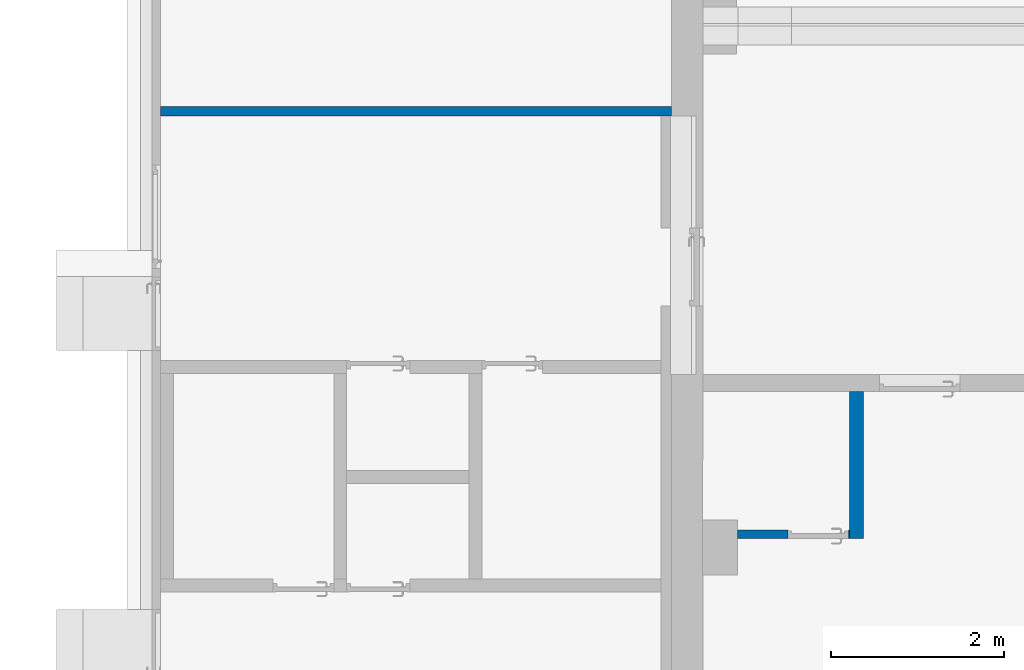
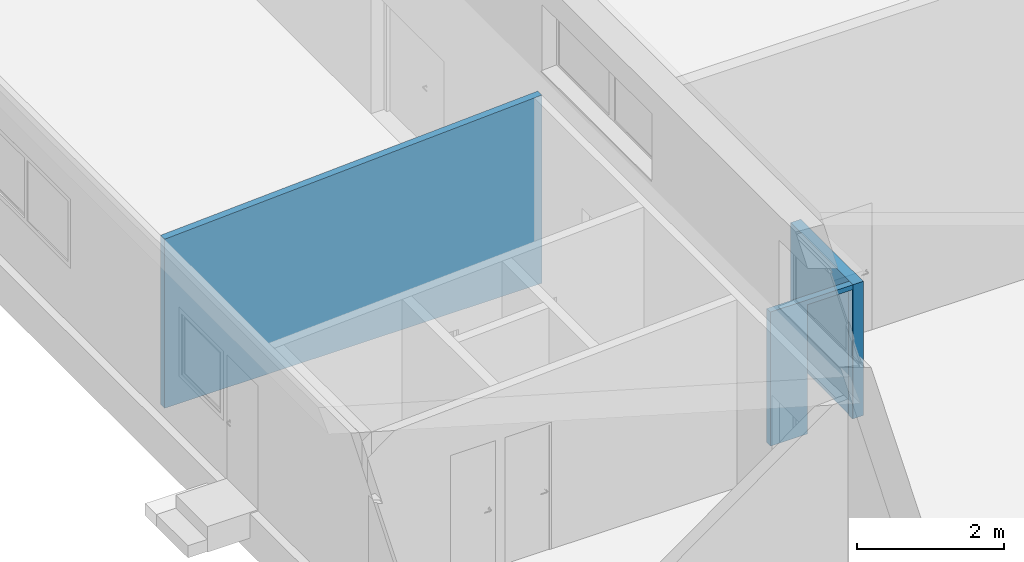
# One storey, part 152 of 301: 3 walls, 1 opening.
"""IFC2X3 building model written with IfcOpenShell, lengths in millimetres."""

from ifc_helpers import new_model, entity, si_unit, converted_unit, derived_unit, money_unit, direction, frame, origin_with_axes, place, context, subcontext, project, spatial, faceted_brep, material, type_object, element, save


model = new_model("IFC2X3")

# Units and contexts
model_context = context("Model", 3, precision=0.01, world=origin_with_axes(), true_north=direction((0.0, 1.0)))
body_context = subcontext(model_context, "Body", "Model", "MODEL_VIEW")
ifc_project = project(units=[si_unit("LENGTHUNIT", "METRE", prefix="MILLI"), si_unit("AREAUNIT", "SQUARE_METRE"), si_unit("VOLUMEUNIT", "CUBIC_METRE"), converted_unit("PLANEANGLEUNIT", "DEGREE", entity("IfcPlaneAngleMeasure", 0.0174532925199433), si_unit("PLANEANGLEUNIT", "RADIAN"), dimensions=[0, 0, 0, 0, 0, 0, 0]), money_unit("EUR"), converted_unit("TIMEUNIT", "Year", entity("IfcTimeMeasure", 31557600.0), si_unit("TIMEUNIT", "SECOND"), dimensions=[0, 0, 1, 0, 0, 0, 0]), si_unit("MASSUNIT", "GRAM", prefix="KILO"), si_unit("THERMODYNAMICTEMPERATUREUNIT", "DEGREE_CELSIUS"), si_unit("LUMINOUSINTENSITYUNIT", "LUMEN"), si_unit("ENERGYUNIT", "JOULE", prefix="MEGA"), derived_unit("THERMALCONDUCTANCEUNIT", [(si_unit("POWERUNIT", "WATT"), 1), (si_unit("LENGTHUNIT", "METRE"), -1), (si_unit("THERMODYNAMICTEMPERATUREUNIT", "KELVIN"), -1)]), derived_unit("SPECIFICHEATCAPACITYUNIT", [(si_unit("ENERGYUNIT", "JOULE"), 1), (si_unit("MASSUNIT", "GRAM", prefix="KILO"), -1), (si_unit("THERMODYNAMICTEMPERATUREUNIT", "KELVIN"), -1)]), derived_unit("MASSDENSITYUNIT", [(si_unit("MASSUNIT", "GRAM", prefix="KILO"), 1), (si_unit("VOLUMEUNIT", "CUBIC_METRE"), -1)])], contexts=[model_context])

# Site, building, storey
site_placement = place(None, frame((0.0, 0.0, 8650.0), z_axis=(0.0, 0.0, 1.0), x_axis=(1.0, 0.0, 0.0)))
site = spatial("IfcSite", under=ifc_project, at=site_placement, Name="43301:001:0844", CompositionType="ELEMENT")
building_placement = place(site_placement, origin_with_axes())
building = spatial("IfcBuilding", under=site, at=building_placement, Name="Kuressaare Ametikooli tuulikute mehaanikute õppekorpus", CompositionType="ELEMENT")
storey_placement = place(building_placement, origin_with_axes())
storey = spatial("IfcBuildingStorey", under=building, at=storey_placement, Name="1.korrus", CompositionType="ELEMENT", Elevation=0.0)

# Wall, opening
ifc_material = material(Name="GENEERILINE - KONSTRUKTRIOON")
wall_type_1 = type_object("IfcWallType", Name="GENEERILINE - KONSTRUKTRIOON 100", PredefinedType="NOTDEFINED")
wall_1_placement = place(storey_placement, frame((88658.50871519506, 92505.7754516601, -330.0), z_axis=(0.0, 0.0, 1.0), x_axis=(1.0, 0.0, 0.0)))
wall_1 = element("IfcWall", 1, at=wall_1_placement, inside=storey, type_object=wall_type_1, material=ifc_material, Name="SS-XX", context=body_context, shape_type="Brep", body=[
    faceted_brep([(582.6088562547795, 99.99999999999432, 2140.0), (582.6088562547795, 99.99999999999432, 0.0), (0.0, 99.99999999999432, 0.0), (0.0, 99.99999999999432, 2220.0), (1297.245412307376, 99.99999999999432, 2220.0), (1297.245412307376, 99.99999999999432, 0.0), (1282.608856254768, 99.99999999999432, 0.0), (1282.608856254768, 99.99999999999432, 2140.0), (582.6088562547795, 0.0, 2140.0), (582.6088562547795, 0.0, 0.0), (0.0, 0.0, 0.0), (0.0, 0.0, 2220.0), (1297.245412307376, 0.0, 2220.0), (1297.245412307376, 0.0, 0.0), (1282.608856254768, 0.0, 0.0), (1282.608856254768, 0.0, 2140.0)], [[[0, 1, 2, 3, 4, 5, 6, 7]], [[1, 0, 8, 9]], [[1, 9, 10, 2]], [[3, 2, 10, 11]], [[12, 4, 3, 11]], [[13, 5, 4, 12]], [[14, 6, 5, 13]], [[7, 6, 14, 15]], [[0, 7, 15, 8]], [[15, 14, 13, 12, 11, 10, 9, 8]]]),
])
opening_placement = place(wall_1_placement, frame((932.6088562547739, 0.0, 0.0), z_axis=(0.0, 0.0, 1.0), x_axis=(1.0, 0.0, 0.0)))
element("IfcOpeningElement", 2, at=opening_placement, cuts=wall_1, Name="SU-XX", context=body_context, shape_type="Brep", body=[
    faceted_brep([(349.9999999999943, 100.9999999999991, 2140.0), (349.9999999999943, 100.9999999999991, 0.0), (-349.9999999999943, 100.9999999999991, 0.0), (-349.9999999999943, 100.9999999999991, 2140.0), (349.9999999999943, -1.000000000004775, 2140.0), (349.9999999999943, -1.000000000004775, 0.0), (-349.9999999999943, -1.000000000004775, 0.0), (-349.9999999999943, -1.000000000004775, 2140.0)], [[[0, 1, 2, 3]], [[4, 5, 1, 0]], [[5, 6, 2, 1]], [[6, 7, 3, 2]], [[7, 4, 0, 3]], [[6, 5, 4, 7]]]),
])

# Walls
wall_type_2 = type_object("IfcWallType", Name="GENEERILINE - KONSTRUKTRIOON 160", PredefinedType="NOTDEFINED")
wall_2_placement = place(storey_placement, frame((90115.75412750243, 92505.7754516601, -330.0), z_axis=(0.0, 0.0, 1.0), x_axis=(0.0, 1.0, 0.0)))
element("IfcWall", 3, at=wall_2_placement, inside=storey, type_object=wall_type_2, material=ifc_material, Name="SS-XX", context=body_context, shape_type="Brep", body=[
    faceted_brep([(0.0, 159.9999999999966, 0.0), (1698.185370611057, 159.9999999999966, 0.0), (1698.185370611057, 0.0, 0.0), (0.0, 0.0, 0.0), (0.0, 159.9999999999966, 2220.0), (1698.185370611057, 159.9999999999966, 2220.0), (1698.185370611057, 0.0, 2220.0), (0.0, 0.0, 2220.0)], [[[0, 1, 2, 3]], [[4, 5, 1, 0]], [[2, 1, 5, 6]], [[3, 2, 6, 7]], [[4, 0, 3, 7]], [[7, 6, 5, 4]]]),
])
wall_type_3 = type_object("IfcWallType", Name="GENEERILINE - KONSTRUKTRIOON 110", PredefinedType="NOTDEFINED")
wall_3_placement = place(storey_placement, frame((87898.75644683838, 97500.79648192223, -330.0), z_axis=(0.0, 0.0, 1.0), x_axis=(-1.0, 0.0, 0.0)))
element("IfcWall", 4, at=wall_3_placement, inside=storey, type_object=wall_type_3, material=ifc_material, context=body_context, shape_type="Brep", body=[
    faceted_brep([(5906.6553374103, 0.0, 2798.406859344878), (0.0, 0.0, 3118.296332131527), (0.0, 0.0, 0.0), (5906.6553374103, 0.0, 0.0), (0.0, 109.9999999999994, 3118.26828380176), (5906.656179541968, 109.9999999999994, 2798.378765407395), (0.0, 109.9999999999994, 0.0), (5906.656179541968, 109.9999999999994, 0.0)], [[[0, 1, 2, 3]], [[4, 1, 0, 5]], [[1, 4, 6, 2]], [[2, 6, 7, 3]], [[5, 0, 3, 7]], [[4, 5, 7, 6]]]),
])

save(model, "model.ifc")
